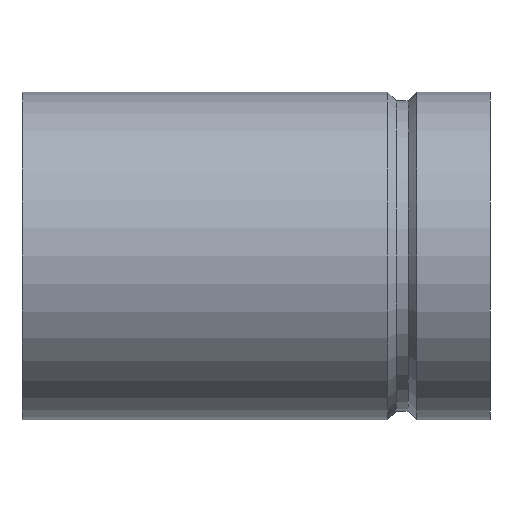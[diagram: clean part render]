
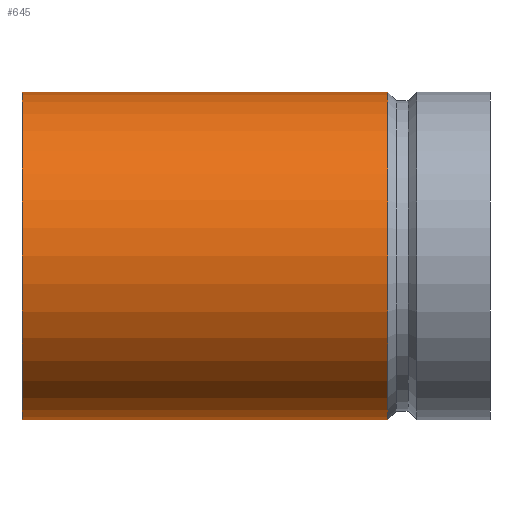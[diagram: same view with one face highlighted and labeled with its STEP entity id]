
A CAD part, front view. The second image highlights one B-rep face of the part: STEP entity #645.
In plain terms, the highlighted cylindrical face has radius 28 mm (diameter 56 mm), a partial arc.
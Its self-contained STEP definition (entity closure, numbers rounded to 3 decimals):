
#31 = EDGE_CURVE ( 'NONE', #530, #61, #297, .T. ) ;
#59 = ORIENTED_EDGE ( 'NONE', *, *, #625, .T. ) ;
#61 = VERTEX_POINT ( 'NONE', #169 ) ;
#72 = FACE_OUTER_BOUND ( 'NONE', #479, .T. ) ;
#73 = CYLINDRICAL_SURFACE ( 'NONE', #74, 28. ) ;
#74 = AXIS2_PLACEMENT_3D ( 'NONE', #75, #76, #77 ) ;
#75 = CARTESIAN_POINT ( 'NONE',  ( 0., 0., 0. ) ) ;
#76 = DIRECTION ( 'NONE',  ( -1., 0., 0. ) ) ;
#77 = DIRECTION ( 'NONE',  ( 0., 0., 1. ) ) ;
#168 = CARTESIAN_POINT ( 'NONE',  ( 0., 0., -28. ) ) ;
#169 = CARTESIAN_POINT ( 'NONE',  ( 0., 0., 28. ) ) ;
#281 = LINE ( 'NONE', #282, #283 ) ;
#282 = CARTESIAN_POINT ( 'NONE',  ( 0., 0., 28. ) ) ;
#283 = VECTOR ( 'NONE', #284, 1000. ) ;
#284 = DIRECTION ( 'NONE',  ( -1., 0., 0. ) ) ;
#297 = CIRCLE ( 'NONE', #298, 28. ) ;
#298 = AXIS2_PLACEMENT_3D ( 'NONE', #299, #300, #301 ) ;
#299 = CARTESIAN_POINT ( 'NONE',  ( 0., 0., 0. ) ) ;
#300 = DIRECTION ( 'NONE',  ( -1., 0., 0. ) ) ;
#301 = DIRECTION ( 'NONE',  ( 0., 0., 1. ) ) ;
#308 = LINE ( 'NONE', #309, #310 ) ;
#309 = CARTESIAN_POINT ( 'NONE',  ( 0., 0., -28. ) ) ;
#310 = VECTOR ( 'NONE', #311, 1000. ) ;
#311 = DIRECTION ( 'NONE',  ( -1., 0., 0. ) ) ;
#336 = CIRCLE ( 'NONE', #337, 28. ) ;
#337 = AXIS2_PLACEMENT_3D ( 'NONE', #338, #339, #340 ) ;
#338 = CARTESIAN_POINT ( 'NONE',  ( 62.5, 0., 0. ) ) ;
#339 = DIRECTION ( 'NONE',  ( -1., 0., 0. ) ) ;
#340 = DIRECTION ( 'NONE',  ( 0., 0., 1. ) ) ;
#354 = CARTESIAN_POINT ( 'NONE',  ( 62.5, 0., -28. ) ) ;
#431 = ORIENTED_EDGE ( 'NONE', *, *, #579, .T. ) ;
#439 = CARTESIAN_POINT ( 'NONE',  ( 62.5, 0., 28. ) ) ;
#479 = EDGE_LOOP ( 'NONE', ( #593, #431, #59, #594 ) ) ;
#530 = VERTEX_POINT ( 'NONE', #168 ) ;
#575 = EDGE_CURVE ( 'NONE', #581, #530, #308, .T. ) ;
#579 = EDGE_CURVE ( 'NONE', #581, #597, #336, .T. ) ;
#581 = VERTEX_POINT ( 'NONE', #354 ) ;
#593 = ORIENTED_EDGE ( 'NONE', *, *, #575, .F. ) ;
#594 = ORIENTED_EDGE ( 'NONE', *, *, #31, .F. ) ;
#597 = VERTEX_POINT ( 'NONE', #439 ) ;
#625 = EDGE_CURVE ( 'NONE', #597, #61, #281, .T. ) ;
#645 = ADVANCED_FACE ( 'NONE', ( #72 ), #73, .T. ) ;
